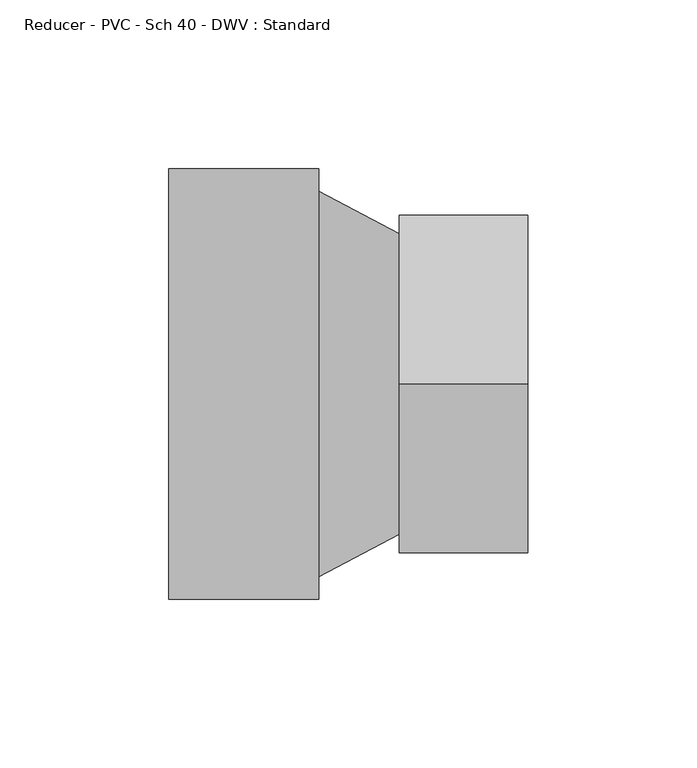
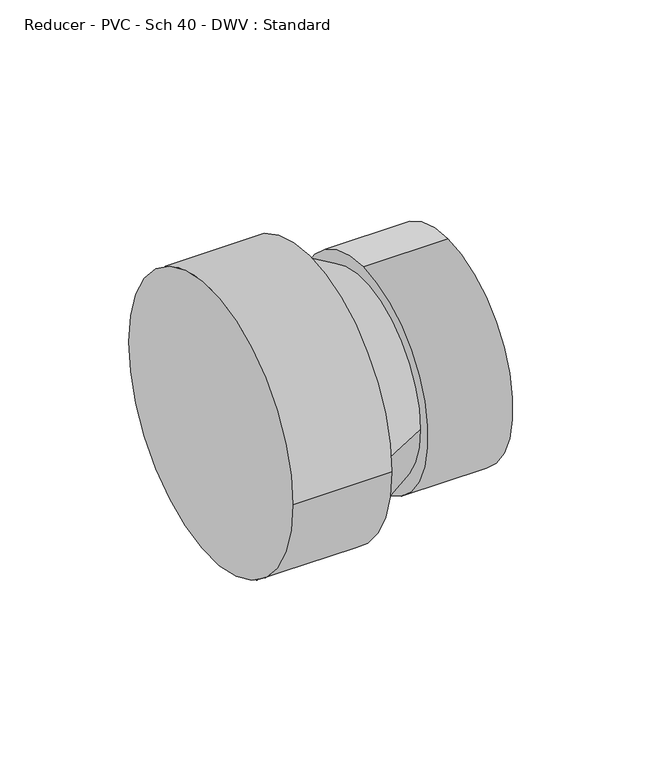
"""IFC4 building model written with IfcOpenShell, lengths in millimetres: pipe fitting geometry, Reducer - PVC - Sch 40 - DWV : Standard."""

from ifc_helpers import new_model, si_unit, frame, origin, place, context, project, spatial, polyline, circle_curve, source, transform, mapped, element, save
from ifc_brep_helpers import plane_surface, cylinder_surface, revolved_surface, advanced_brep


def reducer_pvc_sch_40_dwv_standard_58c00515(model_context):
    return source(origin(), model_context, "Body", "AdvancedBrep", [
        advanced_brep(
        [(0.0, -63.754, 0.0), (0.0, 63.754, 0.0), (44.45, -63.754, 0.0), (44.45, 63.754, 0.0), (44.45, 57.15, 0.0), (44.45, -57.15, 0.0), (68.2752, 44.45, 0.0), (68.2752, -44.45, 0.0), (68.2752, 0.0, 50.2666), (68.2752, 0.0, -50.2666), (106.3752, 0.0, 50.2666), (106.3752, 0.0, -50.2666)],
        [
            (0, 1, circle_curve(frame((0.0, 0.0, 0.0), z_axis=(-1.0, 0.0, 0.0), x_axis=(0.0, 1.0, 0.0)), 63.754)),
            (1, 0, circle_curve(frame((0.0, 0.0, 0.0), z_axis=(-1.0, 0.0, 0.0), x_axis=(0.0, 1.0, 0.0)), 63.754)),
            (2, 3, circle_curve(frame((44.45, 0.0, 0.0), z_axis=(1.0, 0.0, 0.0), x_axis=(0.0, 1.0, 0.0)), 63.754)),
            (3, 2, circle_curve(frame((44.45, 0.0, 0.0), z_axis=(1.0, 0.0, 0.0), x_axis=(0.0, 1.0, 0.0)), 63.754)),
            (4, 5, circle_curve(frame((44.45, 0.0, 0.0), z_axis=(-1.0, 0.0, 0.0), x_axis=(0.0, -1.0, 0.0)), 57.15)),
            (5, 4, circle_curve(frame((44.45, 0.0, 0.0), z_axis=(-1.0, 0.0, 0.0), x_axis=(0.0, 1.0, 0.0)), 57.15)),
            (0, 2),
            (3, 1),
            (4, 6),
            (6, 7, circle_curve(frame((68.2752, 0.0, 0.0), z_axis=(-1.0, 0.0, 0.0), x_axis=(0.0, -1.0, 0.0)), 44.45)),
            (7, 5),
            (7, 6, circle_curve(frame((68.2752, 0.0, 0.0), z_axis=(-1.0, 0.0, 0.0), x_axis=(0.0, 1.0, 0.0)), 44.45)),
            (8, 9, circle_curve(frame((68.2752, 0.0, 0.0), z_axis=(-1.0, 0.0, 0.0), x_axis=(0.0, 0.0, -1.0)), 50.2666)),
            (9, 8, circle_curve(frame((68.2752, 0.0, 0.0), z_axis=(-1.0, 0.0, 0.0), x_axis=(0.0, 0.0, -1.0)), 50.2666)),
            (10, 11, circle_curve(frame((106.3752, 0.0, 0.0), z_axis=(1.0, 0.0, 0.0), x_axis=(0.0, 0.0, -1.0)), 50.2666)),
            (11, 10, circle_curve(frame((106.3752, 0.0, 0.0), z_axis=(1.0, 0.0, 0.0), x_axis=(0.0, 0.0, -1.0)), 50.2666)),
            (8, 10),
            (11, 9),
        ],
        [
            plane_surface(frame((0.0, 0.0, 0.0), z_axis=(-1.0, 0.0, 0.0), x_axis=(0.0, 0.0, 1.0))),
            plane_surface(frame((44.45, 0.0, 0.0), z_axis=(1.0, 0.0, 0.0), x_axis=(0.0, 0.0, 1.0))),
            cylinder_surface(frame((0.0, 0.0, 0.0), z_axis=(-1.0, 0.0, 0.0), x_axis=(0.0, 1.0, 0.0)), 63.754),
            revolved_surface(polyline([(68.2752, 44.45, 0.0), (44.45, 57.15, 0.0)]), (151.6634, 0.0, 0.0), (-1.0, 0.0, 0.0)),
            plane_surface(frame((68.2752, 0.0, 0.0), z_axis=(-1.0, 0.0, 0.0), x_axis=(0.0, 1.0, 0.0))),
            plane_surface(frame((106.3752, 0.0, 0.0), z_axis=(1.0, 0.0, 0.0), x_axis=(0.0, 1.0, 0.0))),
            cylinder_surface(frame((68.2752, 0.0, 0.0), z_axis=(-1.0, 0.0, 0.0), x_axis=(0.0, 0.0, -1.0)), 50.2666),
        ],
        [
            (0, [[1, 2]]),
            (1, [[3, 4], [5, 6]]),
            (2, [[-1, 7, -4, 8]]),
            (2, [[-2, -8, -3, -7]]),
            (3, [[9, 10, 11, -5]]),
            (3, [[-9, -6, -11, 12]]),
            (4, [[13, 14], [-10, -12]]),
            (5, [[15, 16]]),
            (6, [[-13, 17, -16, 18]]),
            (6, [[-14, -18, -15, -17]]),
        ],
    ),
    ])


if __name__ == "__main__":
    model = new_model("IFC4")
    model_context = context("Model", 3, world=origin())
    ifc_project = project(units=[si_unit("LENGTHUNIT", "METRE", prefix="MILLI")], contexts=[model_context])
    site = spatial("IfcSite", under=ifc_project)
    building = spatial("IfcBuilding", under=site)
    placement = place(None, origin())
    reducer_pvc_sch_40_dwv_standard_shape = reducer_pvc_sch_40_dwv_standard_58c00515(model_context)
    element("IfcPipeFitting", 1, ObjectType="Reducer - PVC - Sch 40 - DWV : Standard", at=placement, inside=building, context=model_context, shape_type="MappedRepresentation", body=[
        mapped(reducer_pvc_sch_40_dwv_standard_shape, transform((0.0, 0.0, 0.0), x_axis=(1.0, 0.0, 0.0), y_axis=(0.0, 1.0, 0.0), z_axis=(0.0, 0.0, 1.0))),
    ])
    save(model, "model.ifc")
